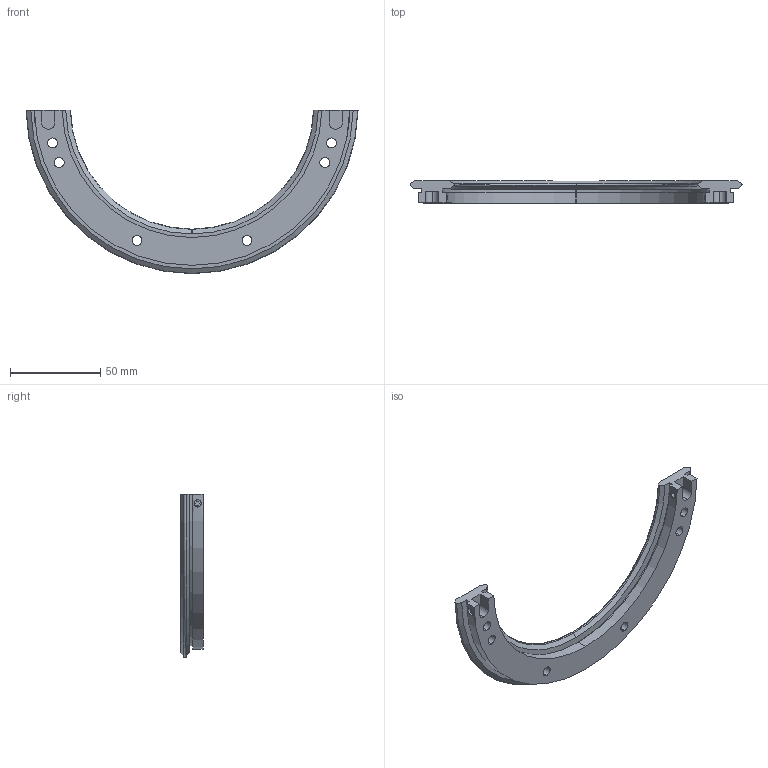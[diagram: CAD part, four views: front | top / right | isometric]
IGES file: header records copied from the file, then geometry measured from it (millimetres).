
Start section: 3D InterOp IGES (v. 2019 1.0.2), Spatial Corp. Copyright (c) 1999-2017.
Global section: file name: TR25 159 R180.igs; native system: Spatial Corp.; preprocessor: 3D InterOp GENERIC/IGES 3.0; author: Noname; organization: Noname; date: 20220628.092359; units: millimetre
Bounding box: 183.59 x 12.25 x 90.31 mm (x, y, z)
Surface area: 20966.3 mm2 (no closed solid volume)
Topology: 0 solids, 0 shells, 108 faces, 548 edges, 548 vertices
Faces by surface type: revolution 56, extrusion 52
